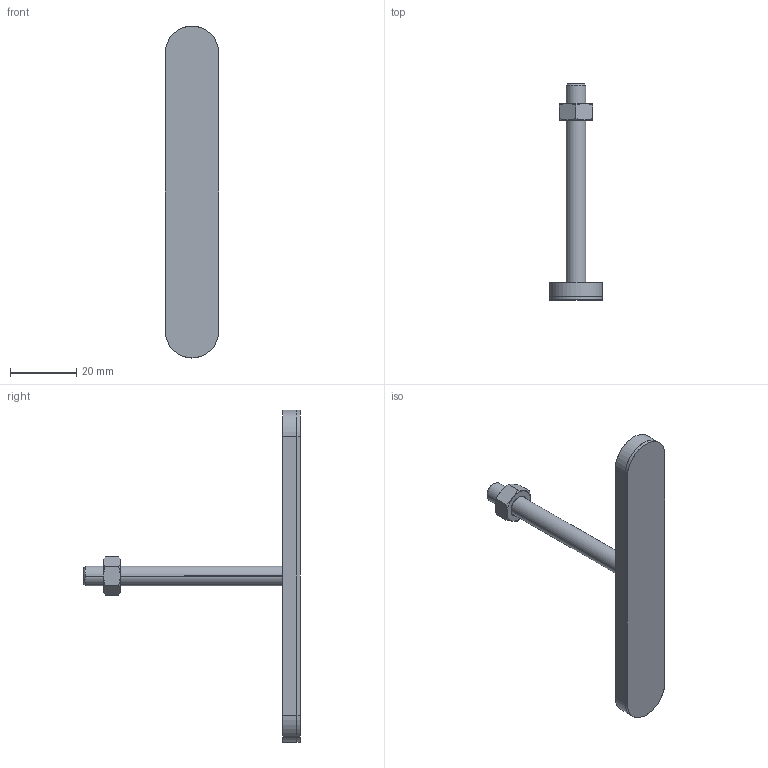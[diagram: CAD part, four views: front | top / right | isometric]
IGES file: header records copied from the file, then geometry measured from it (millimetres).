
Start section: SolidWorks IGES file using analytic representation for surfaces
Global section: file name: C:\Projetos\Ponteiras\PF\PF-M6 - 66x100.IGS; native system: SolidWorks 2014; preprocessor: SolidWorks 2014; author: Ricardo; date: 150721.091926; units: millimetre
Bounding box: 16 x 65.25 x 100 mm (x, y, z)
Surface area: 9096.2 mm2 (no closed solid volume)
Topology: 0 solids, 0 shells, 63 faces, 720 edges, 720 vertices
Faces by surface type: revolution 32, bspline 31
